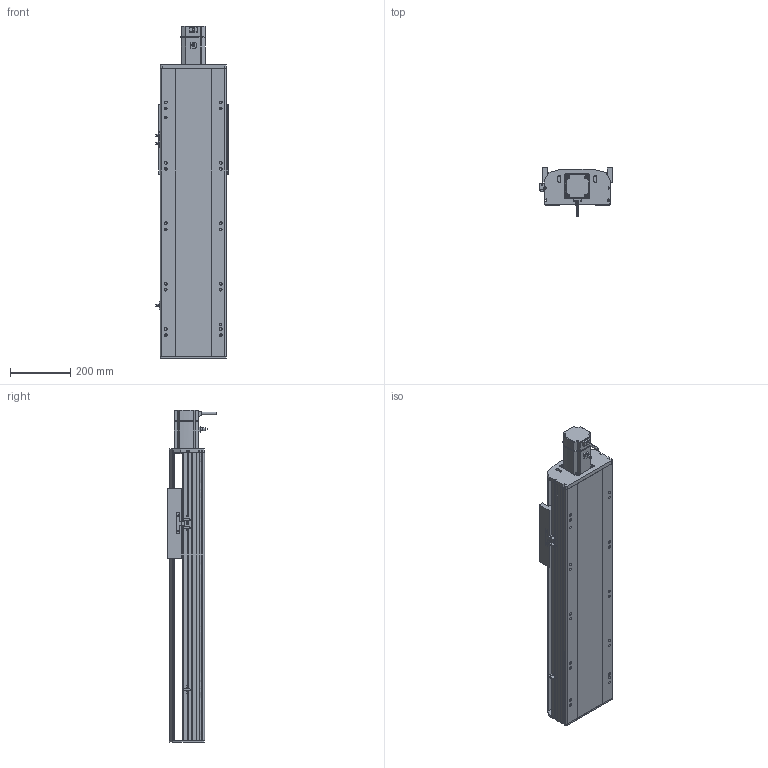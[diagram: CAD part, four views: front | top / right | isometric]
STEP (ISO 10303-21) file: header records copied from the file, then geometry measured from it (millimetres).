
FILE_DESCRIPTION (( 'STEP AP214' ), '1' );
FILE_NAME ('RTH22-XX-550-E-M75-C4.STEP', '2025-10-24T10:43:51', ( 'Microsoft' ), ( 'Microsoft' ), 'SwSTEP 2.0', 'SolidWorks 2018', '' );
FILE_SCHEMA (( 'AUTOMOTIVE_DESIGN' ));
Length unit declared in the file: millimetre
Products named in the file (9): N_RTH22-GY-001耜裔^RTH22-XX-XX-E-M75-C4; N_OMRON EE-SX672 传感器^RTH22-XX-XX-E-M75-C4; N_RTH22-E-011菁釱^RTH22-XX-XX-E-M75-C4; RTH22-XX-550-E-M75-C4; N_750W萇儂^RTH22-XX-XX-E-M75-C4; N_RTH22-E-008萇儂啣^RTH22-XX-XX-E-M75-C4; N_RTH22-GY-013外置感应片^RTH22-XX-XX-E-M75-C4; N_RTH22-E-007奻裔^RTH22-XX-XX-E-M75-C4; N_RTH22-E-004-SFS25賑釱^RTH22-XX-XX-E-M75-C4
Assembly tree (10 placements, depth 2):
  RTH22-XX-550-E-M75-C4
    N_RTH22-E-011菁釱^RTH22-XX-XX-E-M75-C4
    N_RTH22-GY-001耜裔^RTH22-XX-XX-E-M75-C4
    N_RTH22-E-008萇儂啣^RTH22-XX-XX-E-M75-C4
    N_RTH22-E-007奻裔^RTH22-XX-XX-E-M75-C4
    N_RTH22-GY-013外置感应片^RTH22-XX-XX-E-M75-C4
    N_RTH22-E-004-SFS25賑釱^RTH22-XX-XX-E-M75-C4
    N_750W萇儂^RTH22-XX-XX-E-M75-C4
    N_OMRON EE-SX672 传感器^RTH22-XX-XX-E-M75-C4  x3
Bounding box: 238.5 x 160.7 x 1099 mm (x, y, z)
Volume: 14165417 mm3; surface area: 1489463.8 mm2
Topology: 10 solids, 10 shells, 1505 faces, 4124 edges, 2669 vertices
Faces by surface type: plane 752, cylinder 424, bspline 279, cone 50
Entity records: 37203 total; most frequent: CARTESIAN_POINT 11737, ORIENTED_EDGE 5240, DIRECTION 4886, EDGE_CURVE 2620, VERTEX_POINT 1705, AXIS2_PLACEMENT_3D 1630, VECTOR 1626, LINE 1626
